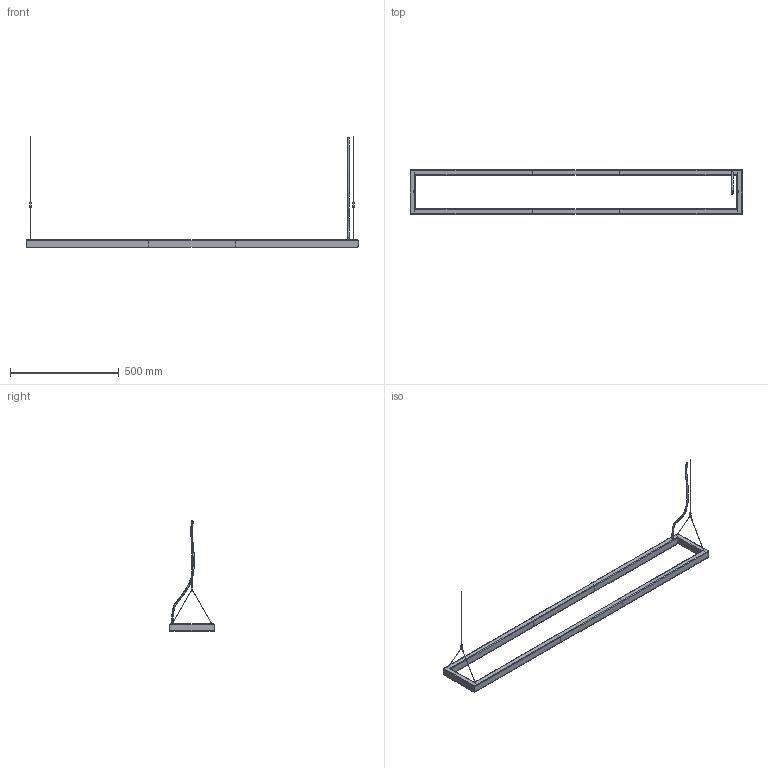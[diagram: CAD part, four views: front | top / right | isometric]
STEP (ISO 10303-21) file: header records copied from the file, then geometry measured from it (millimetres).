
FILE_DESCRIPTION(/* description */ (''),/* implementation_level */ '2;1');
FILE_NAME(/* name */ 'ELIOT2~3',/* time_stamp */ '2019-03-21T11:25:19+01:00',/* author */ (''),/* organization */ (''),/* preprocessor_version */ 'ST-DEVELOPER v15',/* originating_system */ '',/* authorisation */ '');
FILE_SCHEMA (('AUTOMOTIVE_DESIGN_CC2'));
Length unit declared in the file: millimetre
Products named in the file (5): Document; BIFIDO1; BIFIDO; BIFIDO-CAVETTI; filo
Assembly tree (5 placements, depth 3):
  Document
    BIFIDO1  x2
      BIFIDO
      BIFIDO-CAVETTI
    filo
Bounding box: 1530 x 203 x 510 mm (x, y, z)
Volume: 2819900.7 mm3; surface area: 425010 mm2
Topology: 8 solids, 8 shells, 126 faces, 297 edges, 193 vertices
Faces by surface type: bspline 126
Entity records: 6443 total; most frequent: CARTESIAN_POINT 3238, B_SPLINE_CURVE_WITH_KNOTS 576, ORIENTED_EDGE 478, PCURVE 478, DEFINITIONAL_REPRESENTATION 478, SURFACE_CURVE 239, EDGE_CURVE 239, VERTEX_POINT 149
